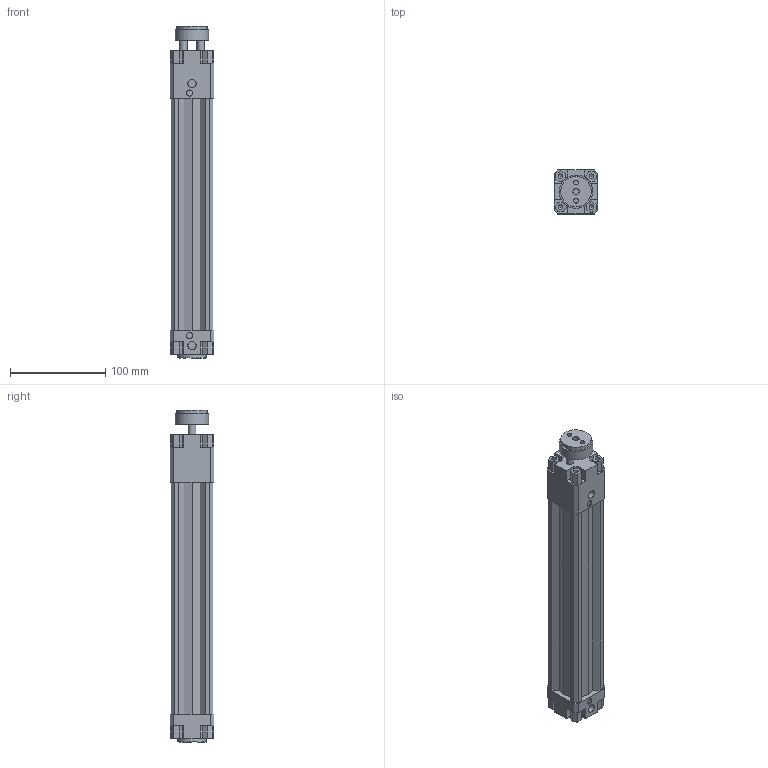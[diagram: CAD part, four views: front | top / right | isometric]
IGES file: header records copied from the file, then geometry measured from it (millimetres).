
Global section: file name: 134#_032_0200_01; native system: Autodesk Inventor 2014; preprocessor: unknown; author: A. Manieri; date: 20161006.164220; units: millimetre
Bounding box: 46 x 46 x 349 mm (x, y, z)
Volume: 373768.2 mm3; surface area: 122588.7 mm2
Topology: 2 solids, 2 shells, 187 faces, 507 edges, 343 vertices
Faces by surface type: bspline 187
